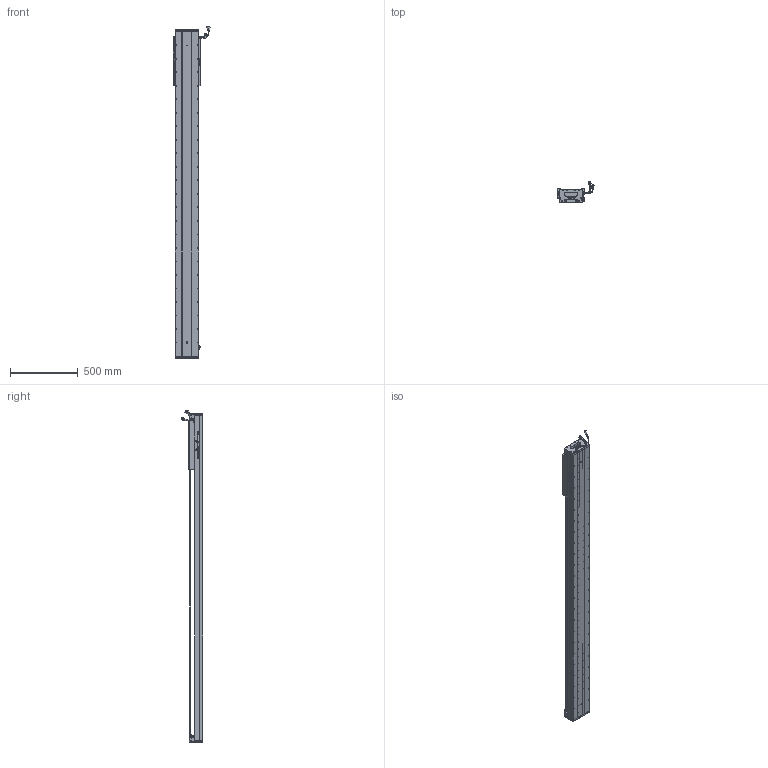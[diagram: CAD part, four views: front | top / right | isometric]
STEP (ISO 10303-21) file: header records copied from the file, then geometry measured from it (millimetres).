
FILE_DESCRIPTION (( 'STEP AP203' ), '1' );
FILE_NAME ('Z5-RY170D-1-L500-B-K.SLDASM_1950.step', '2021-05-18T00:42:12', ( '盈信电脑' ), ( '东莞市道滘镇水果街19号' ), 'SwSTEP 2.0', 'SolidWorks 2016', '' );
FILE_SCHEMA (( 'CONFIG_CONTROL_DESIGN' ));
Length unit declared in the file: millimetre
Products named in the file (36): SCALE-Part-1; SCREW-M1.7-1; 170-Z-臏賑輸盄裔(21遴); 140雄赽晤鎢ん堤盄; Z-170詩湍傷裔啣; Z5-RY170臏賑輸(21遴); Z5-RY170-L500詩湍145mm遵_1950; PSLH080_PSLF2; Z-RY170詩湍狟揤裔; SEAL; LABEL-Part-1; SCALE; HARNESS-Part-1; SCALE-Part-2; Z5-RY170D-1-L500-B-K.SLDASM_1950; SCREW-M1.6; SCREW-M1.6-1; Z-RY170詩湍奻揤裔; RY170直线电机感应器672光电感应片; COVER-Part-1; SCREW-M1.6-3; Z5-RY170-L500耀郪菁釱_1950; SCREW-M1.7; 140蚥薯蝶輸; SCREW-M1.6-2; PBU_SHEET; LABEL; COVER; SHIELDPLATE; HOLDER0; HARNESS-Part-2; 榋妏寠巭燃_暯_M2_2; 覜茼ん672; 080黍杅芛假蚾釱21遴; SEAL-Part-1; HARNESS
Assembly tree (41 placements, depth 4):
  Z5-RY170D-1-L500-B-K.SLDASM_1950
    Z5-RY170-L500耀郪菁釱_1950
    RY170直线电机感应器672光电感应片
    Z5-RY170臏賑輸(21遴)
    覜茼ん672  x3
    PSLH080_PSLF2
      SCALE
        SCALE-Part-1
        SCALE-Part-2
      HARNESS
        HARNESS-Part-1
        HARNESS-Part-2
      LABEL
        LABEL-Part-1
      COVER
        COVER-Part-1
      SEAL
        SEAL-Part-1
      榋妏寠巭燃_暯_M2_2
      SHIELDPLATE
      SCREW-M1.7
      SCREW-M1.7-1
      PBU_SHEET
      SCREW-M1.6
      SCREW-M1.6-1
      SCREW-M1.6-2
      SCREW-M1.6-3
      HOLDER0
    080黍杅芛假蚾釱21遴
    Z5-RY170-L500詩湍145mm遵_1950
    Z-170詩湍傷裔啣  x2
    Z-RY170詩湍奻揤裔  x2
    Z-RY170詩湍狟揤裔  x2
    140蚥薯蝶輸  x2
    170-Z-臏賑輸盄裔(21遴)
    140雄赽晤鎢ん堤盄
Bounding box: 275.34 x 158.11 x 2458.72 mm (x, y, z)
Volume: 12931419.2 mm3; surface area: 3112972.8 mm2
Topology: 36 solids, 36 shells, 4014 faces, 11059 edges, 6911 vertices
Faces by surface type: cylinder 2014, plane 1310, cone 568, torus 69, bspline 53
Entity records: 125239 total; most frequent: CARTESIAN_POINT 34322, ORIENTED_EDGE 18602, DIRECTION 17577, EDGE_CURVE 9301, AXIS2_PLACEMENT_3D 6504, VERTEX_POINT 6029, VECTOR 4569, LINE 4569
